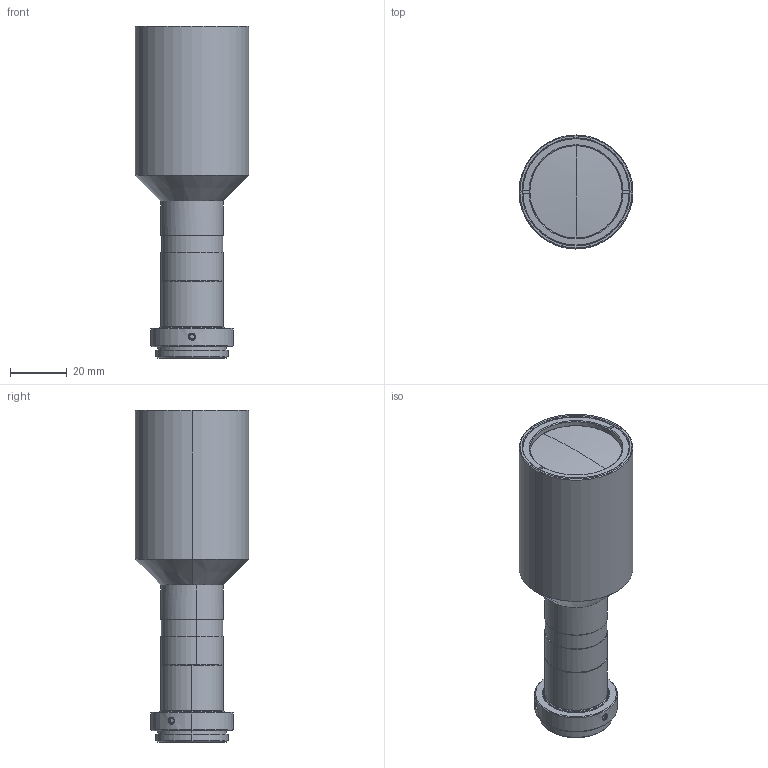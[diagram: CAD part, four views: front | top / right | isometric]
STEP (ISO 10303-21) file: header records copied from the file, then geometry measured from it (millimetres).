
FILE_DESCRIPTION (( 'STEP AP214' ), '1' );
FILE_NAME ('MML08-HR255.STEP', '2026-02-18T04:57:44', ( '' ), ( '' ), 'SwSTEP 2.0', 'SolidWorks 2025', '' );
FILE_SCHEMA (( 'AUTOMOTIVE_DESIGN' ));
Length unit declared in the file: millimetre
Products named in the file (1): MML08-HR255
Bounding box: 40 x 40 x 116.69 mm (x, y, z)
Volume: 91012.5 mm3; surface area: 15342 mm2
Topology: 1 solids, 1 shells, 172 faces, 426 edges, 274 vertices
Faces by surface type: cone 63, plane 60, cylinder 45, sphere 4
Entity records: 5349 total; most frequent: CARTESIAN_POINT 1164, DIRECTION 904, ORIENTED_EDGE 852, EDGE_CURVE 426, AXIS2_PLACEMENT_3D 352, VERTEX_POINT 274, VECTOR 200, LINE 200
